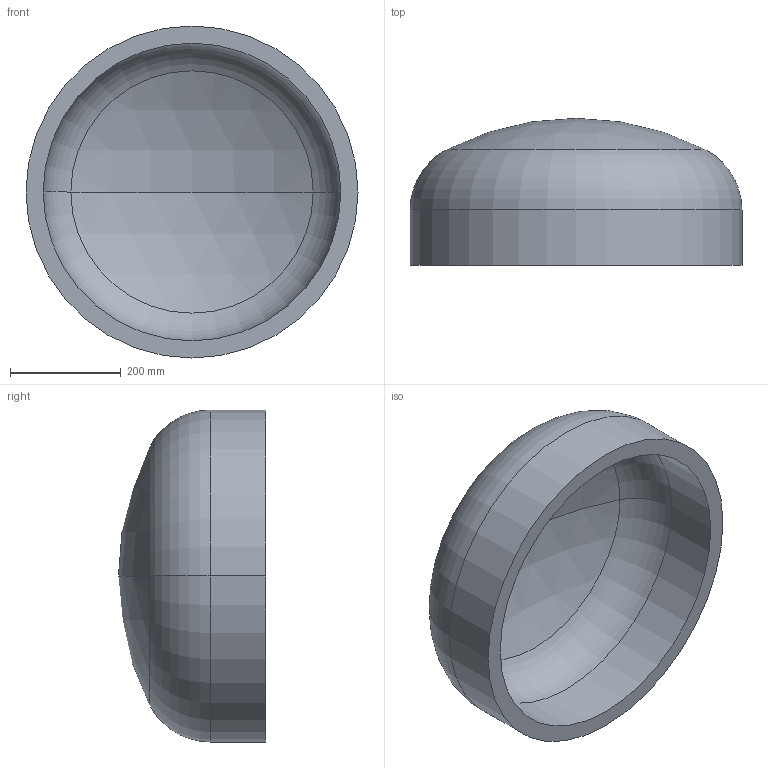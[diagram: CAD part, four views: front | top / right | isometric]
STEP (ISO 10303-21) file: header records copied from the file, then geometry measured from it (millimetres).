
FILE_DESCRIPTION (( 'STEP AP203' ), '1' );
FILE_NAME ('DIN 28013 Korbbogenform_-_Boden DIN 28013 - 600 x 100 - I - s=31.step', '2016-07-01T07:59:29', ( '' ), ( '' ), 'SwSTEP 2.0', 'SolidWorks 2013', '' );
FILE_SCHEMA (( 'CONFIG_CONTROL_DESIGN' ));
Length unit declared in the file: millimetre
Products named in the file (1): DIN 28013 Korbbogenform_-_Boden DIN 28013 - 600 x 100 - I - s=31
Bounding box: 600 x 265.72 x 600 mm (x, y, z)
Volume: 16892042.1 mm3; surface area: 1147236.2 mm2
Topology: 1 solids, 1 shells, 13 faces, 24 edges, 14 vertices
Faces by surface type: torus 4, cylinder 4, sphere 4, plane 1
Entity records: 407 total; most frequent: DIRECTION 72, CARTESIAN_POINT 52, ORIENTED_EDGE 48, AXIS2_PLACEMENT_3D 34, EDGE_CURVE 24, CIRCLE 20, EDGE_LOOP 14, VERTEX_POINT 14
